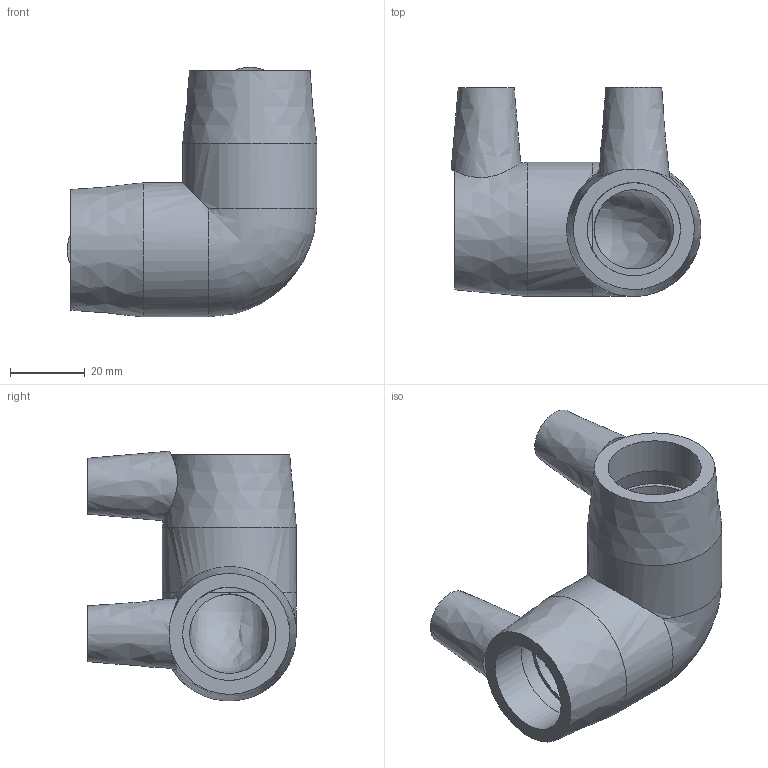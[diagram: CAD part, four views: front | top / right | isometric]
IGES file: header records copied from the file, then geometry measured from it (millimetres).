
Global section: file name: 490504025; native system: Autodesk Inventor 2026; preprocessor: unknown; author: KIM; date: 20260322.131452; units: millimetre
Bounding box: 67 x 56 x 67 mm (x, y, z)
Volume: 53815.6 mm3; surface area: 21497.4 mm2
Topology: 1 solids, 1 shells, 32 faces, 76 edges, 50 vertices
Faces by surface type: bspline 32
